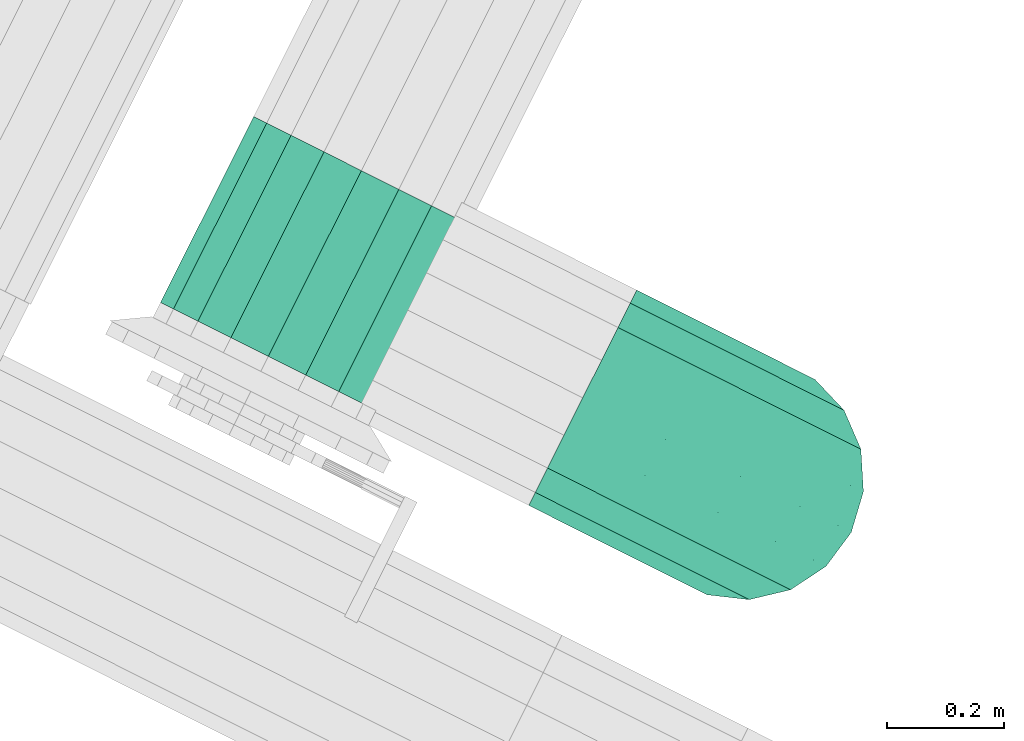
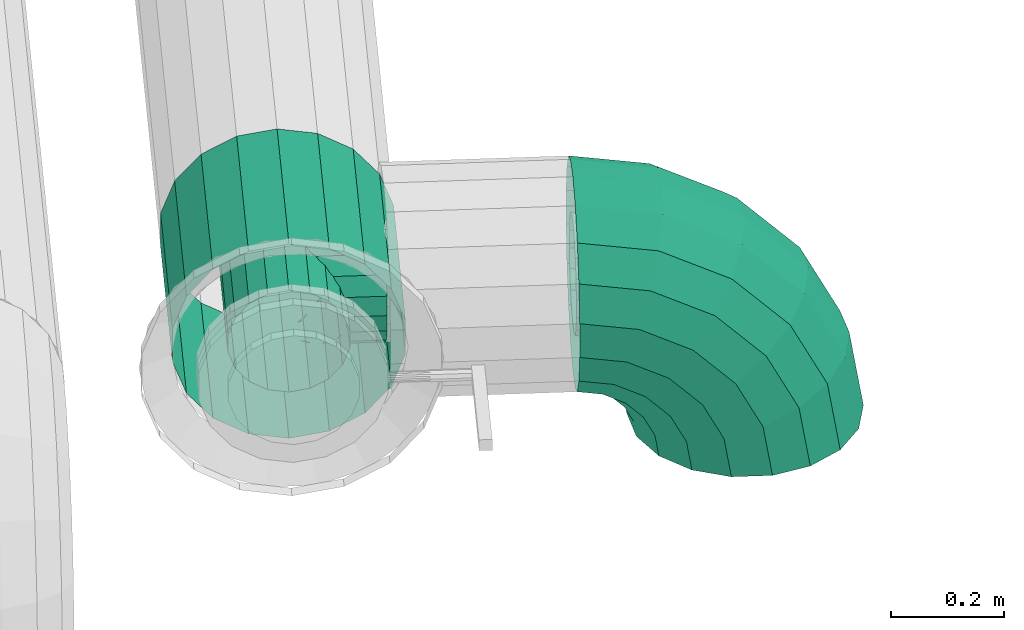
# One storey, part 78 of 152: 1 flow fitting, 1 flow segment.
"""IFC2X3 building model written with IfcOpenShell, lengths in metres."""

from ifc_helpers import new_model, si_unit, derived_unit, direction, frame, origin, place, context, subcontext, project, spatial, face_set, surface_model, source, transform, mapped, material, type_object, type_shapes, element, save


model = new_model("IFC2X3")

# Units and contexts
model_context = context("Model", 3, precision=5.2338327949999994e-05, world=origin(), true_north=direction((0.0, 1.0)))
body_context = subcontext(model_context, "Body", "Model", "MODEL_VIEW")
ifc_project = project(units=[si_unit("LENGTHUNIT", "METRE"), si_unit("AREAUNIT", "SQUARE_METRE"), si_unit("VOLUMEUNIT", "CUBIC_METRE"), si_unit("MASSUNIT", "GRAM", prefix="KILO"), si_unit("PLANEANGLEUNIT", "RADIAN"), derived_unit("THERMALTRANSMITTANCEUNIT", [(si_unit("MASSUNIT", "GRAM", prefix="KILO"), 1), (si_unit("THERMODYNAMICTEMPERATUREUNIT", "KELVIN"), -1), (si_unit("TIMEUNIT", "SECOND"), -3)])], contexts=[model_context])

# Site, building, storey
site_placement = place(None, frame((0.0, 0.0, 0.0), z_axis=(0.0, 0.0, 1.0), x_axis=(0.8939966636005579, -0.4480736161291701, 0.0)))
site = spatial("IfcSite", under=ifc_project, at=site_placement, Name="Default", CompositionType="ELEMENT")
building_placement = place(site_placement, origin())
building = spatial("IfcBuilding", under=site, at=building_placement, CompositionType="ELEMENT")
storey_placement = place(building_placement, frame((0.0, 0.0, 2.7499999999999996)))
storey = spatial("IfcBuildingStorey", under=building, at=storey_placement, Name="1. Obergeschoss", CompositionType="ELEMENT", Elevation=2.7499999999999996)

# Flow segment
ifc_material = material(Name="IfcSurfaceStyle #1741")
distribution_element_type_1 = type_object("IfcDistributionElementType", Name="Rohrbogen 250912:Rohrbogen 250912", material=ifc_material)
shared_shape_1 = source(origin(), body_context, "Body", "SurfaceModel", [
    surface_model("IfcFaceBasedSurfaceModel", [(33.621778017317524, 9.21976352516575, 5.745190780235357), (33.621778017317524, 9.182295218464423, 5.738584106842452), (33.747839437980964, 9.182295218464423, 5.718617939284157), (33.749881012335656, 9.21976352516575, 5.724901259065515), (33.86156108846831, 9.182295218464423, 5.660673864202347), (33.865444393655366, 9.21976352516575, 5.66601877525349), (33.95181110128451, 9.182295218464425, 5.57042385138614), (33.95715601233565, 9.219763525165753, 5.5743071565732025), (34.009755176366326, 9.182295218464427, 5.456702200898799), (34.01603849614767, 9.21976352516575, 5.458743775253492), (34.02972134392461, 9.182295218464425, 5.330640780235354), (34.03632801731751, 9.219763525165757, 5.3306407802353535), (33.62177801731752, 9.149346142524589, 5.719560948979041), (33.74196095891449, 9.149346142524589, 5.700525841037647), (33.85037955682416, 9.149346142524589, 5.645283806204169), (33.93642104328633, 9.149346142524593, 5.559242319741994), (33.99166307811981, 9.149346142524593, 5.450823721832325), (34.0106981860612, 9.149346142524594, 5.330640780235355), (33.621778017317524, 9.124890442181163, 5.690415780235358), (33.732954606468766, 9.124890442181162, 5.672807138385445), (33.83324845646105, 9.124890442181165, 5.621704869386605), (33.91284210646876, 9.124890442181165, 5.5421112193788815), (33.963944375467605, 9.124890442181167, 5.441817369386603), (33.98155301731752, 9.124890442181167, 5.330640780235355), (33.621778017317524, 9.111877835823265, 5.65466393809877), (33.72190667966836, 9.111877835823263, 5.638805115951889), (33.81223405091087, 9.111877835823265, 5.592781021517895), (33.883918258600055, 9.111877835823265, 5.521096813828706), (33.92994235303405, 9.11187783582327, 5.430769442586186), (33.94580117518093, 9.111877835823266, 5.330640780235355), (33.621778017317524, 9.111877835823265, 5.616617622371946), (33.71014972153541, 9.111877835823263, 5.602620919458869), (33.78987098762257, 9.111877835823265, 5.562000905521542), (33.8531381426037, 9.111877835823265, 5.498733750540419), (33.89375815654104, 9.111877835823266, 5.419012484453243), (33.90775485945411, 9.111877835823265, 5.330640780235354), (33.621778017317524, 9.124890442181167, 5.580865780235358), (33.69910179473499, 9.124890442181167, 5.5686188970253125), (33.7688565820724, 9.124890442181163, 5.533077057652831), (33.824214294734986, 9.124890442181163, 5.477719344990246), (33.85975613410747, 9.124890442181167, 5.407964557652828), (33.872003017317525, 9.124890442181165, 5.330640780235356), (33.621778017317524, 9.14934614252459, 5.551720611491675), (33.69009544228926, 9.149346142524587, 5.540900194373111), (33.75172548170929, 9.149346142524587, 5.509498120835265), (33.80063535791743, 9.149346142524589, 5.4605882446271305), (33.83203743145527, 9.14934614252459, 5.398958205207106), (33.842857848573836, 9.149346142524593, 5.330640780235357), (33.621778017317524, 9.182295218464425, 5.532697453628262), (33.6842169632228, 9.182295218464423, 5.5228080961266), (33.740543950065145, 9.182295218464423, 5.494108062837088), (33.78524529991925, 9.182295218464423, 5.449406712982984), (33.81394533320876, 9.182295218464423, 5.393079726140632), (33.82383469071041, 9.182295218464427, 5.330640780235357), (33.621778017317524, 9.21976352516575, 5.52609078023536), (33.6821753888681, 9.21976352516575, 5.516524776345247), (33.736660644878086, 9.21976352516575, 5.4887631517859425), (33.77990038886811, 9.21976352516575, 5.4455234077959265), (33.807662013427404, 9.219763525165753, 5.391038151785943), (33.81722801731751, 9.21976352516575, 5.330640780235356), (33.62177801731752, 9.257231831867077, 5.532697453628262), (33.6842169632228, 9.257231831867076, 5.522808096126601), (33.74054395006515, 9.257231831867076, 5.494108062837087), (33.78524529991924, 9.257231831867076, 5.449406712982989), (33.81394533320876, 9.257231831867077, 5.393079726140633), (33.82383469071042, 9.25723183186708, 5.330640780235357), (33.621778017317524, 9.29018090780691, 5.551720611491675), (33.69009544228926, 9.29018090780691, 5.540900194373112), (33.75172548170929, 9.29018090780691, 5.509498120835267), (33.80063535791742, 9.290180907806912, 5.46058824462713), (33.83203743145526, 9.290180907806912, 5.398958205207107), (33.842857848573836, 9.290180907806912, 5.330640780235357), (33.621778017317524, 9.31463660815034, 5.580865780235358), (33.69910179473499, 9.31463660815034, 5.568618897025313), (33.7688565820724, 9.314636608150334, 5.533077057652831), (33.824214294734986, 9.314636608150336, 5.477719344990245), (33.85975613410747, 9.314636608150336, 5.407964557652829), (33.87200301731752, 9.31463660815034, 5.330640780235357), (33.62177801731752, 9.32764921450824, 5.616617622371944), (33.710149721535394, 9.327649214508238, 5.602620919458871), (33.78987098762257, 9.327649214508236, 5.562000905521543), (33.8531381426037, 9.327649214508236, 5.498733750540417), (33.89375815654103, 9.32764921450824, 5.419012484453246), (33.90775485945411, 9.327649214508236, 5.330640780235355), (33.62177801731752, 9.327649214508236, 5.65466393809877), (33.72190667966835, 9.327649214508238, 5.638805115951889), (33.81223405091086, 9.327649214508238, 5.592781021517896), (33.883918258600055, 9.32764921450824, 5.521096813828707), (33.92994235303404, 9.32764921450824, 5.430769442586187), (33.94580117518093, 9.32764921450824, 5.330640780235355), (33.621778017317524, 9.314636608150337, 5.690415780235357), (33.732954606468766, 9.314636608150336, 5.672807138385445), (33.83324845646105, 9.314636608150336, 5.621704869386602), (33.91284210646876, 9.31463660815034, 5.542111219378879), (33.963944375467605, 9.31463660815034, 5.441817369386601), (33.981553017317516, 9.314636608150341, 5.330640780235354), (33.62177801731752, 9.290180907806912, 5.719560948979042), (33.74196095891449, 9.290180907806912, 5.700525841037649), (33.85037955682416, 9.290180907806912, 5.64528380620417), (33.93642104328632, 9.290180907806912, 5.559242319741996), (33.9916630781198, 9.290180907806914, 5.450823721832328), (34.0106981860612, 9.290180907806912, 5.330640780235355), (33.62177801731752, 9.257231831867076, 5.738584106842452), (33.74783943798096, 9.257231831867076, 5.718617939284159), (33.86156108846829, 9.257231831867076, 5.660673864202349), (33.95181110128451, 9.257231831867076, 5.57042385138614), (34.00975517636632, 9.257231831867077, 5.456702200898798), (34.02972134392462, 9.25723183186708, 5.330640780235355), (33.621778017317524, 9.219763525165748, 5.845190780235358), (33.62177801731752, 9.148093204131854, 5.832553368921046), (33.77687753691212, 9.148093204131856, 5.8079880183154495), (33.78078271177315, 9.219763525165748, 5.820006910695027), (33.91679483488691, 9.148093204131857, 5.7366965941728), (33.92422291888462, 9.21976352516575, 5.746920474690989), (34.02783383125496, 9.14809320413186, 5.625657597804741), (34.03805771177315, 9.219763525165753, 5.63308568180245), (34.09912525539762, 9.148093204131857, 5.485740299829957), (34.11114414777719, 9.219763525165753, 5.4896454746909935), (34.12369060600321, 9.14809320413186, 5.330640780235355), (34.13632801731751, 9.219763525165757, 5.3306407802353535), (33.62177801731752, 9.085067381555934, 5.796165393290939), (33.76563303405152, 9.085067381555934, 5.773380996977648), (33.89540651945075, 9.085067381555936, 5.7072581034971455), (33.99839534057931, 9.085067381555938, 5.604269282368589), (34.06451823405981, 9.08506738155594, 5.47449579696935), (34.08730263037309, 9.08506738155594, 5.330640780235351), (33.621778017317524, 9.03828790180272, 5.740415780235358), (33.74840545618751, 9.038287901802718, 5.720359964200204), (33.86263771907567, 9.038287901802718, 5.66215571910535), (33.95329295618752, 9.03828790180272, 5.571500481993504), (34.01149720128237, 9.038287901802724, 5.457268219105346), (34.03155301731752, 9.038287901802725, 5.330640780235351), (33.62177801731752, 9.013397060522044, 5.672028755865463), (33.72727270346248, 9.013397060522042, 5.655320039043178), (33.82244083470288, 9.013397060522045, 5.606829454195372), (33.89796669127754, 9.013397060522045, 5.531303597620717), (33.946457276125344, 9.013397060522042, 5.436135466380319), (33.96316599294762, 9.013397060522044, 5.330640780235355), (33.62177801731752, 9.013397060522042, 5.599252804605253), (33.70478369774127, 9.013397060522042, 5.586105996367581), (33.77966420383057, 9.013397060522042, 5.547952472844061), (33.83908970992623, 9.013397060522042, 5.4885269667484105), (33.87724323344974, 9.013397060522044, 5.413646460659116), (33.89039004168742, 9.013397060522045, 5.330640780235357), (33.621778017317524, 9.03828790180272, 5.5308657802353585), (33.68365094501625, 9.038287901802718, 5.521066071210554), (33.73946731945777, 9.038287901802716, 5.492626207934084), (33.78376344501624, 9.038287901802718, 5.4483300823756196), (33.81220330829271, 9.03828790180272, 5.392513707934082), (33.82200301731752, 9.03828790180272, 5.330640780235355), (33.62177801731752, 9.085067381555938, 5.475116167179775), (33.66642336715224, 9.085067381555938, 5.468045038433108), (33.7066985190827, 9.085067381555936, 5.447523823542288), (33.73866106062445, 9.085067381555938, 5.415561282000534), (33.759182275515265, 9.08506738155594, 5.375286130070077), (33.76625340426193, 9.085067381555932, 5.330640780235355), (33.62177801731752, 9.14809320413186, 5.438728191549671), (33.65517886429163, 9.148093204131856, 5.433438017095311), (33.685310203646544, 9.148093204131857, 5.418085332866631), (33.70922256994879, 9.148093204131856, 5.394172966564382), (33.72457525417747, 9.148093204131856, 5.364041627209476), (33.72986542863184, 9.148093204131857, 5.330640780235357), (33.62177801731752, 9.21976352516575, 5.426090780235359), (33.6512736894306, 9.21976352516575, 5.421419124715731), (33.67788211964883, 9.21976352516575, 5.407861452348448), (33.6989986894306, 9.21976352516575, 5.386744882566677), (33.71255636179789, 9.21976352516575, 5.360136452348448), (33.71722801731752, 9.21976352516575, 5.330640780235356), (33.62177801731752, 9.291433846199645, 5.43872819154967), (33.65517886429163, 9.291433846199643, 5.433438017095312), (33.685310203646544, 9.291433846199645, 5.418085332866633), (33.70922256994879, 9.291433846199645, 5.39417296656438), (33.72457525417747, 9.291433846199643, 5.364041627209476), (33.729865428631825, 9.291433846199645, 5.330640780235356), (33.62177801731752, 9.354459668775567, 5.475116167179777), (33.66642336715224, 9.354459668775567, 5.468045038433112), (33.70669851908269, 9.354459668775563, 5.447523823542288), (33.73866106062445, 9.354459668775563, 5.415561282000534), (33.75918227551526, 9.354459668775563, 5.375286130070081), (33.76625340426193, 9.354459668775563, 5.330640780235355), (33.62177801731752, 9.401239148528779, 5.5308657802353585), (33.68365094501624, 9.401239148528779, 5.521066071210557), (33.73946731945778, 9.401239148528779, 5.4926262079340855), (33.78376344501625, 9.401239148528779, 5.448330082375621), (33.81220330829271, 9.401239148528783, 5.392513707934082), (33.82200301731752, 9.401239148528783, 5.330640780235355), (33.62177801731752, 9.426129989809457, 5.599252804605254), (33.70478369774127, 9.426129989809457, 5.586105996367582), (33.77966420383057, 9.426129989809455, 5.547952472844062), (33.83908970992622, 9.426129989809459, 5.488526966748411), (33.87724323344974, 9.42612998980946, 5.413646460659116), (33.89039004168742, 9.42612998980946, 5.330640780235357), (33.62177801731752, 9.42612998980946, 5.672028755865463), (33.72727270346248, 9.426129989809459, 5.655320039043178), (33.82244083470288, 9.426129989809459, 5.606829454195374), (33.89796669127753, 9.426129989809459, 5.531303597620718), (33.946457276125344, 9.426129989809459, 5.43613546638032), (33.96316599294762, 9.426129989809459, 5.330640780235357), (33.62177801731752, 9.401239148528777, 5.740415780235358), (33.74840545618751, 9.401239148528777, 5.720359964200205), (33.862637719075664, 9.401239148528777, 5.6621557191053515), (33.95329295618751, 9.40123914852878, 5.571500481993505), (34.01149720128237, 9.401239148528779, 5.457268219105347), (34.03155301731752, 9.401239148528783, 5.330640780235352), (33.62177801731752, 9.354459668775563, 5.7961653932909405), (33.76563303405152, 9.354459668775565, 5.773380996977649), (33.89540651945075, 9.354459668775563, 5.707258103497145), (33.99839534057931, 9.354459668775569, 5.6042692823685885), (34.06451823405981, 9.354459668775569, 5.474495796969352), (34.0873026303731, 9.354459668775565, 5.330640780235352), (33.62177801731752, 9.291433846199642, 5.832553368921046), (33.77687753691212, 9.291433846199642, 5.8079880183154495), (33.91679483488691, 9.291433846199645, 5.7366965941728), (34.02783383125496, 9.291433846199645, 5.625657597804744), (34.09912525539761, 9.291433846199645, 5.485740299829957), (34.1236906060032, 9.291433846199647, 5.330640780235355)], [face_set([[[0, 1, 2, 3]], [[3, 2, 4, 5]], [[5, 4, 6, 7]], [[7, 6, 8, 9]], [[9, 8, 10, 11]], [[1, 12, 13, 2]], [[2, 13, 14, 4]], [[4, 14, 15, 6]], [[6, 15, 16, 8]], [[8, 16, 17, 10]], [[12, 18, 19, 13]], [[13, 19, 20, 14]], [[14, 20, 21, 15]], [[15, 21, 22, 16]], [[16, 22, 23, 17]], [[18, 24, 25, 19]], [[19, 25, 26, 20]], [[20, 26, 27, 21]], [[21, 27, 28, 22]], [[22, 28, 29, 23]], [[24, 30, 31, 25]], [[25, 31, 32, 26]], [[26, 32, 33, 27]], [[27, 33, 34, 28]], [[28, 34, 35, 29]], [[30, 36, 37, 31]], [[31, 37, 38, 32]], [[32, 38, 39, 33]], [[33, 39, 40, 34]], [[34, 40, 41, 35]], [[36, 42, 43, 37]], [[37, 43, 44, 38]], [[38, 44, 45, 39]], [[39, 45, 46, 40]], [[40, 46, 47, 41]], [[42, 48, 49, 43]], [[43, 49, 50, 44]], [[44, 50, 51, 45]], [[45, 51, 52, 46]], [[46, 52, 53, 47]], [[48, 54, 55, 49]], [[49, 55, 56, 50]], [[50, 56, 57, 51]], [[51, 57, 58, 52]], [[52, 58, 59, 53]], [[54, 60, 61, 55]], [[55, 61, 62, 56]], [[56, 62, 63, 57]], [[57, 63, 64, 58]], [[58, 64, 65, 59]], [[60, 66, 67, 61]], [[61, 67, 68, 62]], [[62, 68, 69, 63]], [[63, 69, 70, 64]], [[64, 70, 71, 65]], [[66, 72, 73, 67]], [[67, 73, 74, 68]], [[68, 74, 75, 69]], [[69, 75, 76, 70]], [[70, 76, 77, 71]], [[72, 78, 79, 73]], [[73, 79, 80, 74]], [[74, 80, 81, 75]], [[75, 81, 82, 76]], [[76, 82, 83, 77]], [[78, 84, 85, 79]], [[79, 85, 86, 80]], [[80, 86, 87, 81]], [[81, 87, 88, 82]], [[82, 88, 89, 83]], [[84, 90, 91, 85]], [[85, 91, 92, 86]], [[86, 92, 93, 87]], [[87, 93, 94, 88]], [[88, 94, 95, 89]], [[90, 96, 97, 91]], [[91, 97, 98, 92]], [[92, 98, 99, 93]], [[93, 99, 100, 94]], [[94, 100, 101, 95]], [[96, 102, 103, 97]], [[97, 103, 104, 98]], [[98, 104, 105, 99]], [[99, 105, 106, 100]], [[100, 106, 107, 101]], [[102, 0, 3, 103]], [[103, 3, 5, 104]], [[104, 5, 7, 105]], [[105, 7, 9, 106]], [[106, 9, 11, 107]], [[108, 109, 110, 111]], [[111, 110, 112, 113]], [[113, 112, 114, 115]], [[115, 114, 116, 117]], [[117, 116, 118, 119]], [[109, 120, 121, 110]], [[110, 121, 122, 112]], [[112, 122, 123, 114]], [[114, 123, 124, 116]], [[116, 124, 125, 118]], [[120, 126, 127, 121]], [[121, 127, 128, 122]], [[122, 128, 129, 123]], [[123, 129, 130, 124]], [[124, 130, 131, 125]], [[126, 132, 133, 127]], [[127, 133, 134, 128]], [[128, 134, 135, 129]], [[129, 135, 136, 130]], [[130, 136, 137, 131]], [[132, 138, 139, 133]], [[133, 139, 140, 134]], [[134, 140, 141, 135]], [[135, 141, 142, 136]], [[136, 142, 143, 137]], [[138, 144, 145, 139]], [[139, 145, 146, 140]], [[140, 146, 147, 141]], [[141, 147, 148, 142]], [[142, 148, 149, 143]], [[144, 150, 151, 145]], [[145, 151, 152, 146]], [[146, 152, 153, 147]], [[147, 153, 154, 148]], [[148, 154, 155, 149]], [[150, 156, 157, 151]], [[151, 157, 158, 152]], [[152, 158, 159, 153]], [[153, 159, 160, 154]], [[154, 160, 161, 155]], [[156, 162, 163, 157]], [[157, 163, 164, 158]], [[158, 164, 165, 159]], [[159, 165, 166, 160]], [[160, 166, 167, 161]], [[162, 168, 169, 163]], [[163, 169, 170, 164]], [[164, 170, 171, 165]], [[165, 171, 172, 166]], [[166, 172, 173, 167]], [[168, 174, 175, 169]], [[169, 175, 176, 170]], [[170, 176, 177, 171]], [[171, 177, 178, 172]], [[172, 178, 179, 173]], [[174, 180, 181, 175]], [[175, 181, 182, 176]], [[176, 182, 183, 177]], [[177, 183, 184, 178]], [[178, 184, 185, 179]], [[180, 186, 187, 181]], [[181, 187, 188, 182]], [[182, 188, 189, 183]], [[183, 189, 190, 184]], [[184, 190, 191, 185]], [[186, 192, 193, 187]], [[187, 193, 194, 188]], [[188, 194, 195, 189]], [[189, 195, 196, 190]], [[190, 196, 197, 191]], [[192, 198, 199, 193]], [[193, 199, 200, 194]], [[194, 200, 201, 195]], [[195, 201, 202, 196]], [[196, 202, 203, 197]], [[198, 204, 205, 199]], [[199, 205, 206, 200]], [[200, 206, 207, 201]], [[201, 207, 208, 202]], [[202, 208, 209, 203]], [[204, 210, 211, 205]], [[205, 211, 212, 206]], [[206, 212, 213, 207]], [[207, 213, 214, 208]], [[208, 214, 215, 209]], [[210, 108, 111, 211]], [[211, 111, 113, 212]], [[212, 113, 115, 213]], [[213, 115, 117, 214]], [[214, 117, 119, 215]]])]),
])
type_shapes(distribution_element_type_1, [shared_shape_1])
flow_segment_placement = place(storey_placement, frame((0.0, 0.0, -2.7499999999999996)))
element("IfcFlowSegment", 1, at=flow_segment_placement, inside=storey, type_object=distribution_element_type_1, material=ifc_material, Name="Rohrbogen", ObjectType="Rohrbogen", context=body_context, shape_type="MappedRepresentation", body=[
    mapped(shared_shape_1, transform((0.0, 0.0, 0.0), scale=1.0)),
])

# Flow fitting
distribution_element_type_2 = type_object("IfcDistributionElementType", Name="Abzweigstück 252243:Abzweigstück 252243", material=ifc_material)
shared_shape_2 = source(origin(), body_context, "Body", "SurfaceModel", [
    surface_model("IfcFaceBasedSurfaceModel", [(33.108522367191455, 9.04176352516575, 5.526090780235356), (33.07105406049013, 9.04176352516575, 5.532697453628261), (33.07105406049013, 9.39776352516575, 5.532697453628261), (33.108522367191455, 9.39776352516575, 5.526090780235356), (33.038104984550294, 9.04176352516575, 5.551720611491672), (33.038104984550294, 9.39776352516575, 5.551720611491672), (33.01364928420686, 9.04176352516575, 5.580865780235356), (33.01364928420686, 9.39776352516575, 5.580865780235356), (33.00063667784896, 9.04176352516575, 5.616617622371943), (33.00063667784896, 9.39776352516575, 5.616617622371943), (33.00063667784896, 9.04176352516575, 5.654663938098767), (33.00063667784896, 9.39776352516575, 5.654663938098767), (33.01364928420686, 9.04176352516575, 5.690415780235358), (33.01364928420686, 9.39776352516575, 5.690415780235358), (33.038104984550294, 9.04176352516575, 5.719560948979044), (33.038104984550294, 9.39776352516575, 5.719560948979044), (33.071054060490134, 9.04176352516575, 5.73858410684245), (33.071054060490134, 9.39776352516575, 5.73858410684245), (33.108522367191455, 9.04176352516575, 5.745190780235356), (33.108522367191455, 9.39776352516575, 5.745190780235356), (33.14599067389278, 9.04176352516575, 5.738584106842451), (33.14599067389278, 9.39776352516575, 5.738584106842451), (33.178939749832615, 9.04176352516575, 5.719560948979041), (33.178939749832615, 9.39776352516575, 5.719560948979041), (33.20339545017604, 9.04176352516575, 5.690415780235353), (33.20339545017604, 9.39776352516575, 5.690415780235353), (33.21640805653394, 9.04176352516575, 5.654663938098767), (33.21640805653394, 9.39776352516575, 5.654663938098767), (33.21640805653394, 9.04176352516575, 5.616617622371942), (33.21640805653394, 9.39776352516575, 5.616617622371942), (33.20339545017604, 9.04176352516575, 5.580865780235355), (33.20339545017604, 9.39776352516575, 5.580865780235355), (33.17893974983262, 9.04176352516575, 5.551720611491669), (33.17893974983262, 9.39776352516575, 5.551720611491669), (33.145990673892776, 9.04176352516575, 5.532697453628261), (33.145990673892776, 9.39776352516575, 5.532697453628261), (33.108522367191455, 9.04176352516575, 5.426090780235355), (33.03685204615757, 9.04176352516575, 5.438728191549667), (33.03685204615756, 9.39776352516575, 5.438728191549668), (33.108522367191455, 9.39776352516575, 5.426090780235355), (32.97382622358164, 9.04176352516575, 5.475116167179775), (32.97382622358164, 9.39776352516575, 5.475116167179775), (32.92704674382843, 9.04176352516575, 5.530865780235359), (32.92704674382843, 9.39776352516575, 5.530865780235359), (32.90215590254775, 9.04176352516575, 5.599252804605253), (32.90215590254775, 9.39776352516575, 5.599252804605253), (32.90215590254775, 9.04176352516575, 5.672028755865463), (32.90215590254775, 9.39776352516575, 5.672028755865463), (32.92704674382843, 9.04176352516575, 5.740415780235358), (32.92704674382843, 9.39776352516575, 5.740415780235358), (32.973826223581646, 9.04176352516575, 5.796165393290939), (32.973826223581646, 9.39776352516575, 5.796165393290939), (33.03685204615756, 9.04176352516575, 5.832553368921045), (33.03685204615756, 9.39776352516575, 5.832553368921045), (33.108522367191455, 9.04176352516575, 5.845190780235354), (33.108522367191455, 9.39776352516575, 5.845190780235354), (33.180192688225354, 9.04176352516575, 5.832553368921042), (33.180192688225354, 9.39776352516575, 5.832553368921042), (33.24321851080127, 9.04176352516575, 5.796165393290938), (33.24321851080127, 9.39776352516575, 5.796165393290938), (33.28999799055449, 9.04176352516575, 5.740415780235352), (33.28999799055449, 9.39776352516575, 5.740415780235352), (33.31488883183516, 9.04176352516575, 5.672028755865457), (33.31488883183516, 9.39776352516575, 5.672028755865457), (33.31488883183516, 9.04176352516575, 5.59925280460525), (33.31488883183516, 9.39776352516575, 5.59925280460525), (33.28999799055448, 9.04176352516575, 5.530865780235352), (33.28999799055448, 9.39776352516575, 5.530865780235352), (33.24321851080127, 9.04176352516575, 5.475116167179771), (33.24321851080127, 9.39776352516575, 5.475116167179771), (33.18019268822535, 9.04176352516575, 5.438728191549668), (33.18019268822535, 9.39776352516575, 5.438728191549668), (33.21807236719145, 9.329313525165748, 5.635640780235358), (33.21146569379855, 9.322706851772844, 5.673109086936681), (33.28652236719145, 9.322706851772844, 5.673109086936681), (33.28652236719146, 9.329313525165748, 5.635640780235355), (33.19244253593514, 9.303683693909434, 5.706058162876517), (33.28652236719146, 9.303683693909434, 5.7060581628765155), (33.163297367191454, 9.27453852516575, 5.730513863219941), (33.28652236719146, 9.27453852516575, 5.73051386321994), (33.12754552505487, 9.238786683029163, 5.7435264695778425), (33.28652236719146, 9.238786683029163, 5.743526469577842), (33.12754552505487, 9.200740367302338, 5.7435264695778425), (33.28652236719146, 9.200740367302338, 5.743526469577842), (33.163297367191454, 9.16498852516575, 5.73051386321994), (33.28652236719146, 9.16498852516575, 5.730513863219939), (33.19244253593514, 9.135843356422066, 5.706058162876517), (33.28652236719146, 9.135843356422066, 5.706058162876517), (33.21146569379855, 9.116820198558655, 5.673109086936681), (33.28652236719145, 9.116820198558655, 5.673109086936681), (33.21807236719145, 9.11021352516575, 5.635640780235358), (33.28652236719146, 9.11021352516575, 5.635640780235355), (33.21146569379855, 9.116820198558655, 5.59817247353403), (33.28652236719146, 9.116820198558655, 5.598172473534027), (33.192442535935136, 9.135843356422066, 5.565223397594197), (33.28652236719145, 9.135843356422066, 5.565223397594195), (33.163297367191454, 9.16498852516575, 5.5407676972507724), (33.28652236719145, 9.16498852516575, 5.540767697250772), (33.12754552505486, 9.200740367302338, 5.527755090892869), (33.28652236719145, 9.200740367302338, 5.5277550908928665), (33.12754552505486, 9.238786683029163, 5.527755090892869), (33.28652236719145, 9.238786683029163, 5.5277550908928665), (33.163297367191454, 9.27453852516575, 5.5407676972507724), (33.28652236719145, 9.27453852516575, 5.540767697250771), (33.192442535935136, 9.303683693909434, 5.565223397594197), (33.28652236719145, 9.303683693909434, 5.5652233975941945), (33.21146569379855, 9.322706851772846, 5.59817247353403), (33.28652236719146, 9.322706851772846, 5.598172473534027)], [face_set([[[0, 1, 2, 3]], [[1, 4, 5, 2]], [[4, 6, 7, 5]], [[6, 8, 9, 7]], [[8, 10, 11, 9]], [[10, 12, 13, 11]], [[12, 14, 15, 13]], [[14, 16, 17, 15]], [[16, 18, 19, 17]], [[18, 20, 21, 19]], [[20, 22, 23, 21]], [[22, 24, 25, 23]], [[24, 26, 27, 25]], [[26, 28, 29, 27]], [[28, 30, 31, 29]], [[30, 32, 33, 31]], [[32, 34, 35, 33]], [[34, 0, 3, 35]], [[36, 37, 38, 39]], [[37, 40, 41, 38]], [[40, 42, 43, 41]], [[42, 44, 45, 43]], [[44, 46, 47, 45]], [[46, 48, 49, 47]], [[48, 50, 51, 49]], [[50, 52, 53, 51]], [[52, 54, 55, 53]], [[54, 56, 57, 55]], [[56, 58, 59, 57]], [[58, 60, 61, 59]], [[60, 62, 63, 61]], [[62, 64, 65, 63]], [[64, 66, 67, 65]], [[66, 68, 69, 67]], [[68, 70, 71, 69]], [[70, 36, 39, 71]], [[72, 73, 74, 75]], [[73, 76, 77, 74]], [[76, 78, 79, 77]], [[78, 80, 81, 79]], [[80, 82, 83, 81]], [[82, 84, 85, 83]], [[84, 86, 87, 85]], [[86, 88, 89, 87]], [[88, 90, 91, 89]], [[90, 92, 93, 91]], [[92, 94, 95, 93]], [[94, 96, 97, 95]], [[96, 98, 99, 97]], [[98, 100, 101, 99]], [[100, 102, 103, 101]], [[102, 104, 105, 103]], [[104, 106, 107, 105]], [[106, 72, 75, 107]]])]),
])
type_shapes(distribution_element_type_2, [shared_shape_2])
flow_fitting_placement = place(storey_placement, frame((0.0, 0.0, -2.7499999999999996)))
element("IfcFlowFitting", 2, at=flow_fitting_placement, inside=storey, type_object=distribution_element_type_2, material=ifc_material, Name="Abzweigstück", ObjectType="Abzweigstück", context=body_context, shape_type="MappedRepresentation", body=[
    mapped(shared_shape_2, transform((0.0, 0.0, 0.0), scale=1.0)),
])

save(model, "model.ifc")
